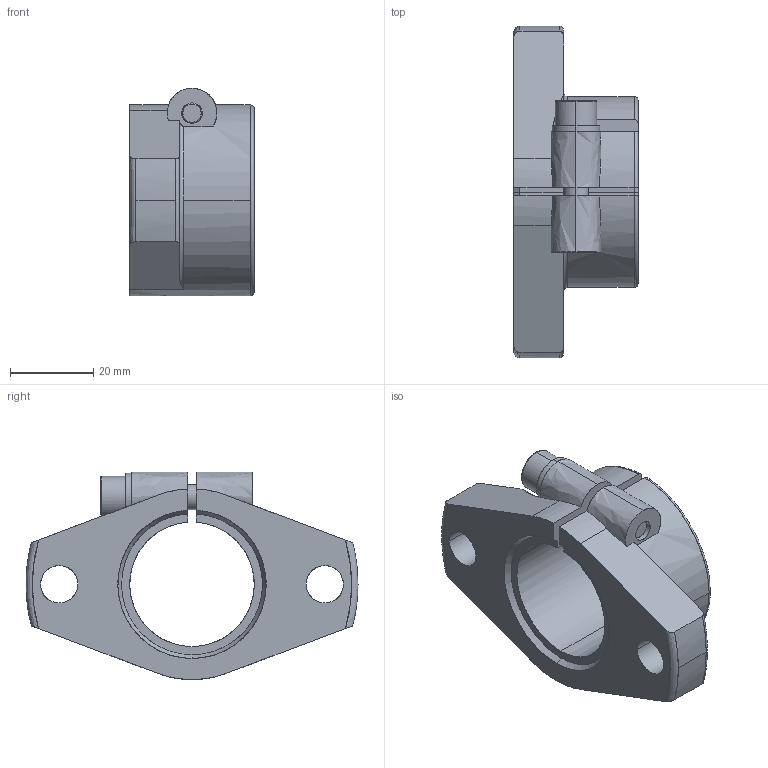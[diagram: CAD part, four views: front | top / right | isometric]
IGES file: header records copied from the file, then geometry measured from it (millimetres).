
Global section: file name: No Iges File Name specified; native system: AutoDesk Inventor R10; preprocessor: AutoDesk Inventor Iges Exporter R10; author: No Author specified; organization: No Organization specified; date: 20101214.153638; units: millimetre
Bounding box: 30 x 80 x 50 mm (x, y, z)
Surface area: 13624.8 mm2 (no closed solid volume)
Topology: 0 solids, 0 shells, 75 faces, 682 edges, 680 vertices
Faces by surface type: bspline 75
